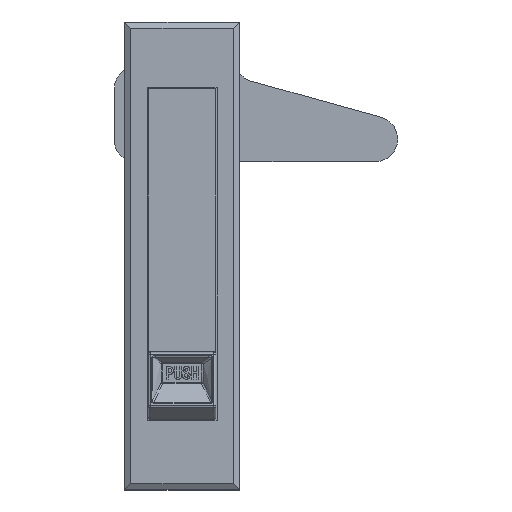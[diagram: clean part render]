
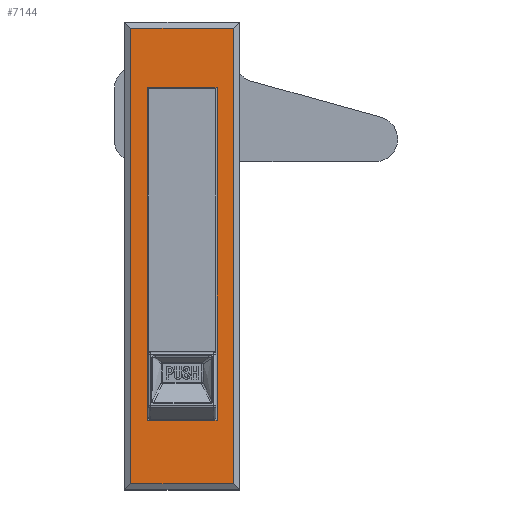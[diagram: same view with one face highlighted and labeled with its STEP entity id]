
A CAD part, top view. The second image highlights one B-rep face of the part: STEP entity #7144.
In plain terms, the highlighted planar face has unit normal (0, 0, 1) as drawn and (0, 1, 0) by its records, which use the part's own axes.
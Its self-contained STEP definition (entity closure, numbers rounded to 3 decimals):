
#81 = FACE_OUTER_BOUND ( 'NONE', #10388, .T. ) ;
#264 = LINE ( 'NONE', #7797, #8671 ) ;
#971 = EDGE_CURVE ( 'NONE', #4975, #11991, #1110, .T. ) ;
#1018 = DIRECTION ( 'NONE',  ( 0., 0., 1. ) ) ;
#1026 = CARTESIAN_POINT ( 'NONE',  ( 0., 2.5, -41. ) ) ;
#1068 = VECTOR ( 'NONE', #9004, 1000. ) ;
#1110 = LINE ( 'NONE', #1026, #1782 ) ;
#1143 = CARTESIAN_POINT ( 'NONE',  ( 8.5, 2.5, 0. ) ) ;
#1470 = ORIENTED_EDGE ( 'NONE', *, *, #8843, .F. ) ;
#1782 = VECTOR ( 'NONE', #8391, 1000. ) ;
#2072 = ORIENTED_EDGE ( 'NONE', *, *, #971, .T. ) ;
#2186 = DIRECTION ( 'NONE',  ( 0., 0., 1. ) ) ;
#2193 = CARTESIAN_POINT ( 'NONE',  ( -8.5, 2.5, -41. ) ) ;
#2269 = LINE ( 'NONE', #4974, #13122 ) ;
#3167 = LINE ( 'NONE', #10545, #11268 ) ;
#3258 = LINE ( 'NONE', #1143, #8553 ) ;
#3515 = CARTESIAN_POINT ( 'NONE',  ( 0., 2.5, 40. ) ) ;
#3523 = DIRECTION ( 'NONE',  ( 0., 0., -1. ) ) ;
#3696 = CARTESIAN_POINT ( 'NONE',  ( -14., 2.5, -55.5 ) ) ;
#3775 = CARTESIAN_POINT ( 'NONE',  ( 14., 2.5, 55.5 ) ) ;
#3854 = LINE ( 'NONE', #3696, #1068 ) ;
#3873 = DIRECTION ( 'NONE',  ( 0., 0., 1. ) ) ;
#3911 = ORIENTED_EDGE ( 'NONE', *, *, #11085, .T. ) ;
#3953 = EDGE_CURVE ( 'NONE', #11991, #12520, #3258, .T. ) ;
#4037 = VECTOR ( 'NONE', #5946, 1000. ) ;
#4087 = VERTEX_POINT ( 'NONE', #5678 ) ;
#4926 = VERTEX_POINT ( 'NONE', #12624 ) ;
#4974 = CARTESIAN_POINT ( 'NONE',  ( -8.5, 2.5, 0. ) ) ;
#4975 = VERTEX_POINT ( 'NONE', #2193 ) ;
#5000 = CARTESIAN_POINT ( 'NONE',  ( 12.5, 2.5, 55.5 ) ) ;
#5025 = VERTEX_POINT ( 'NONE', #7559 ) ;
#5331 = FACE_BOUND ( 'NONE', #5612, .T. ) ;
#5576 = CARTESIAN_POINT ( 'NONE',  ( -12.5, 2.5, -55.5 ) ) ;
#5612 = EDGE_LOOP ( 'NONE', ( #2072, #5617, #8368, #1470 ) ) ;
#5617 = ORIENTED_EDGE ( 'NONE', *, *, #3953, .T. ) ;
#5678 = CARTESIAN_POINT ( 'NONE',  ( -12.5, 2.5, 55.5 ) ) ;
#5818 = EDGE_CURVE ( 'NONE', #4926, #12520, #6033, .T. ) ;
#5946 = DIRECTION ( 'NONE',  ( 1., 0., 0. ) ) ;
#5960 = CARTESIAN_POINT ( 'NONE',  ( 0., 2.5, 0. ) ) ;
#6033 = LINE ( 'NONE', #3515, #11317 ) ;
#6037 = DIRECTION ( 'NONE',  ( 0., 0., 1. ) ) ;
#6067 = ORIENTED_EDGE ( 'NONE', *, *, #11965, .T. ) ;
#6244 = ORIENTED_EDGE ( 'NONE', *, *, #10200, .T. ) ;
#6871 = LINE ( 'NONE', #3775, #4037 ) ;
#7144 = ADVANCED_FACE ( 'NONE', ( #81, #5331 ), #9138, .T. ) ;
#7559 = CARTESIAN_POINT ( 'NONE',  ( 12.5, 2.5, -55.5 ) ) ;
#7797 = CARTESIAN_POINT ( 'NONE',  ( 12.5, 2.5, -57. ) ) ;
#8368 = ORIENTED_EDGE ( 'NONE', *, *, #5818, .F. ) ;
#8391 = DIRECTION ( 'NONE',  ( 1., 0., 0. ) ) ;
#8553 = VECTOR ( 'NONE', #2186, 1000. ) ;
#8671 = VECTOR ( 'NONE', #3523, 1000. ) ;
#8820 = AXIS2_PLACEMENT_3D ( 'NONE', #5960, #10212, #3873 ) ;
#8843 = EDGE_CURVE ( 'NONE', #4975, #4926, #2269, .T. ) ;
#9004 = DIRECTION ( 'NONE',  ( -1., 0., 0. ) ) ;
#9138 = PLANE ( 'NONE',  #8820 ) ;
#9825 = DIRECTION ( 'NONE',  ( 1., 0., 0. ) ) ;
#9961 = CARTESIAN_POINT ( 'NONE',  ( 8.5, 2.5, 40. ) ) ;
#10012 = VERTEX_POINT ( 'NONE', #5576 ) ;
#10200 = EDGE_CURVE ( 'NONE', #4087, #12666, #6871, .T. ) ;
#10212 = DIRECTION ( 'NONE',  ( 0., 1., 0. ) ) ;
#10388 = EDGE_LOOP ( 'NONE', ( #6244, #3911, #6067, #11682 ) ) ;
#10545 = CARTESIAN_POINT ( 'NONE',  ( -12.5, 2.5, 57. ) ) ;
#11085 = EDGE_CURVE ( 'NONE', #12666, #5025, #264, .T. ) ;
#11134 = CARTESIAN_POINT ( 'NONE',  ( 8.5, 2.5, -41. ) ) ;
#11268 = VECTOR ( 'NONE', #1018, 1000. ) ;
#11317 = VECTOR ( 'NONE', #9825, 1000. ) ;
#11682 = ORIENTED_EDGE ( 'NONE', *, *, #12827, .T. ) ;
#11965 = EDGE_CURVE ( 'NONE', #5025, #10012, #3854, .T. ) ;
#11991 = VERTEX_POINT ( 'NONE', #11134 ) ;
#12520 = VERTEX_POINT ( 'NONE', #9961 ) ;
#12624 = CARTESIAN_POINT ( 'NONE',  ( -8.5, 2.5, 40. ) ) ;
#12666 = VERTEX_POINT ( 'NONE', #5000 ) ;
#12827 = EDGE_CURVE ( 'NONE', #10012, #4087, #3167, .T. ) ;
#13122 = VECTOR ( 'NONE', #6037, 1000. ) ;
